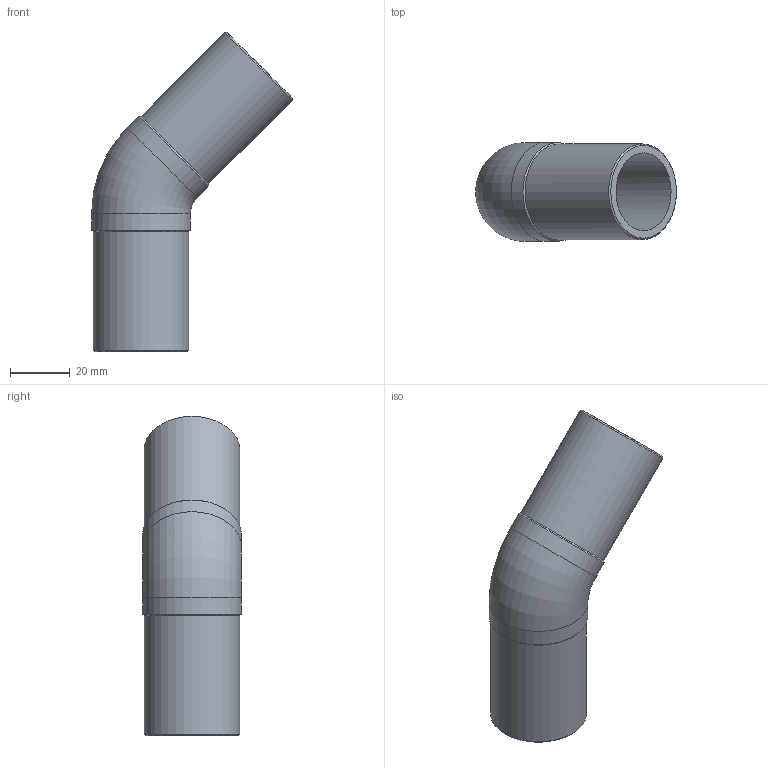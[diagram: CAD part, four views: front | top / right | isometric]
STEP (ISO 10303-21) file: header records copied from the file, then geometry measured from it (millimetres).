
FILE_DESCRIPTION(/* description */ ('Unknown'),/* implementation_level */ '2;1');
FILE_NAME(/* name */ 'G4P032C.H',/* time_stamp */ '2022-01-19T09:07:36+01:00',/* author */ ('Unknown'),/* organization */ ('Unknown'),/* preprocessor_version */ 'ST-DEVELOPER v18.1',/* originating_system */ 'Solid Edge',/* authorisation */ 'Unknown');
FILE_SCHEMA (('AUTOMOTIVE_DESIGN {1 0 10303 214 3 1 1}'));
Length unit declared in the file: millimetre
Products named in the file (1): G4P032C.H
Bounding box: 67.06 x 33 x 106.56 mm (x, y, z)
Volume: 31971 mm3; surface area: 20846.4 mm2
Topology: 1 solids, 1 shells, 14 faces, 34 edges, 22 vertices
Faces by surface type: cylinder 6, cone 4, plane 2, torus 2
Full cylindrical faces by diameter (mm): 26 x2, 32 x2, 33 x2
Entity records: 364 total; most frequent: CARTESIAN_POINT 64, DIRECTION 60, ORIENTED_EDGE 38, AXIS2_PLACEMENT_3D 30, EDGE_LOOP 27, FACE_BOUND 27, EDGE_CURVE 19, VERTEX_POINT 18
